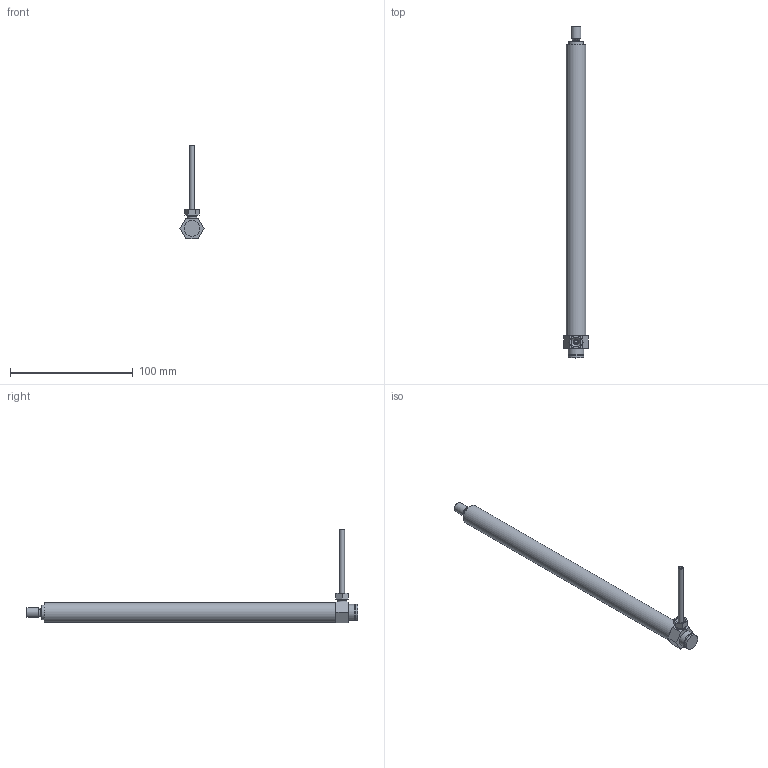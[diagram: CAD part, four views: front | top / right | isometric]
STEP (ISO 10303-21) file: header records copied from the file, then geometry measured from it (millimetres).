
FILE_DESCRIPTION(/* description */ ('Unknown'),/* implementation_level */ '2;1');
FILE_NAME(/* name */ '107.00142 Zylinder CH 1420_eingefahren',/* time_stamp */ '2018-06-21T14:54:49+02:00',/* author */ ('Unknown'),/* organization */ ('Unknown'),/* preprocessor_version */ 'ST-DEVELOPER v16.7',/* originating_system */ 'DEX',/* authorisation */ $);
FILE_SCHEMA (('AUTOMOTIVE_DESIGN {1 0 10303 214 3 1 1}'));
Length unit declared in the file: millimetre
Products named in the file (9): 107.00142; 121.00002; 142.00021; 125.00021; 115.00001_oa_0; 125.00033; 120.00022; 122.00001; 113.00002_70mm
Assembly tree (8 placements, depth 2):
  107.00142
    121.00002
    142.00021
    125.00021
    115.00001_oa_0
    125.00033
    120.00022
    122.00001
    113.00002_70mm
Bounding box: 19.63 x 271 x 76.5 mm (x, y, z)
Volume: 42735.6 mm3; surface area: 37168.4 mm2
Topology: 7 solids, 7 shells, 97 faces, 197 edges, 125 vertices
Faces by surface type: plane 38, cylinder 29, cone 24, torus 5, sphere 1
Full cylindrical faces by diameter (mm): 2.2 x1, 2.78 x1, 3.5 x1, 4 x1, 4.1 x1, 4.2 x1, 6 x1, 6.917 x2, 7.763 x2, 8 x4, 8.1 x3, 9 x1, 12 x2, 12.5 x1, 13 x2, 13.9 x2, 14 x2, 16 x1
Entity records: 2964 total; most frequent: CARTESIAN_POINT 416, DIRECTION 406, ORIENTED_EDGE 258, AXIS2_PLACEMENT_3D 185, FACE_BOUND 174, EDGE_LOOP 172, EDGE_CURVE 129, VERTEX_POINT 113
